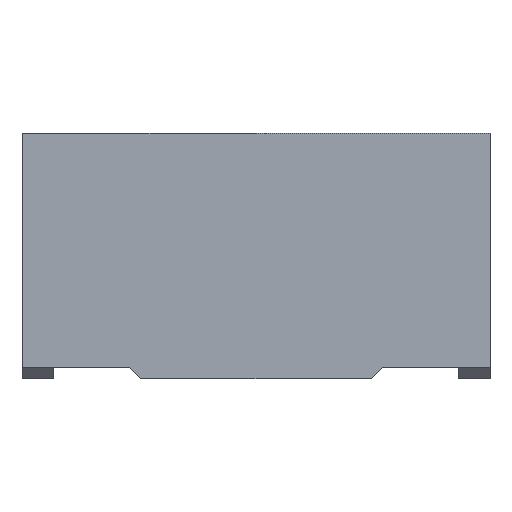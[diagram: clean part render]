
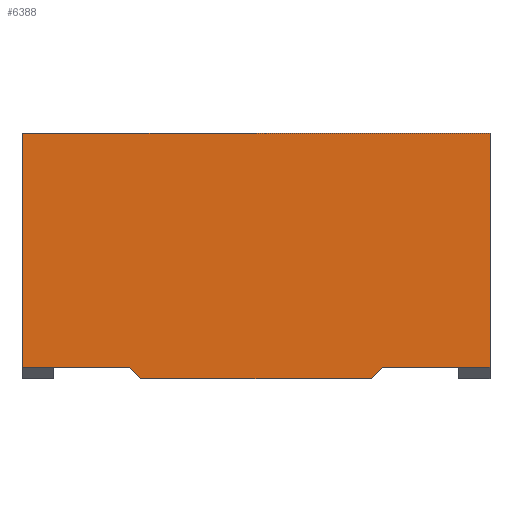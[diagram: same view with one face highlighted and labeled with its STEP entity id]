
A CAD part, left-side view. The second image highlights one B-rep face of the part: STEP entity #6388.
In plain terms, the highlighted planar face has unit normal (-1, 0, 0).
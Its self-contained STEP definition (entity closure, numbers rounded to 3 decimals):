
#35 = LINE ( 'NONE', #2072, #5003 ) ;
#58 = CARTESIAN_POINT ( 'NONE',  ( 0., -3.05, -0.3 ) ) ;
#243 = ORIENTED_EDGE ( 'NONE', *, *, #1831, .F. ) ;
#288 = VECTOR ( 'NONE', #5220, 1000. ) ;
#490 = VECTOR ( 'NONE', #4942, 1000. ) ;
#561 = VERTEX_POINT ( 'NONE', #3801 ) ;
#582 = LINE ( 'NONE', #6223, #4992 ) ;
#616 = DIRECTION ( 'NONE',  ( 0., 1., 0. ) ) ;
#710 = VECTOR ( 'NONE', #6273, 1000. ) ;
#789 = EDGE_CURVE ( 'NONE', #6575, #3134, #35, .T. ) ;
#940 = DIRECTION ( 'NONE',  ( 1., 0., 0. ) ) ;
#1003 = EDGE_CURVE ( 'NONE', #6548, #4027, #582, .T. ) ;
#1044 = CARTESIAN_POINT ( 'NONE',  ( 0., 0., 6. ) ) ;
#1073 = AXIS2_PLACEMENT_3D ( 'NONE', #1044, #940, #2975 ) ;
#1089 = EDGE_CURVE ( 'NONE', #6575, #4739, #3721, .T. ) ;
#1118 = ORIENTED_EDGE ( 'NONE', *, *, #1471, .T. ) ;
#1471 = EDGE_CURVE ( 'NONE', #6157, #3465, #2204, .T. ) ;
#1739 = ORIENTED_EDGE ( 'NONE', *, *, #2001, .F. ) ;
#1831 = EDGE_CURVE ( 'NONE', #4739, #3465, #2334, .T. ) ;
#1866 = VECTOR ( 'NONE', #4524, 1000. ) ;
#1891 = LINE ( 'NONE', #1956, #490 ) ;
#1956 = CARTESIAN_POINT ( 'NONE',  ( 0., -12., 0. ) ) ;
#2001 = EDGE_CURVE ( 'NONE', #6157, #6548, #5558, .T. ) ;
#2072 = CARTESIAN_POINT ( 'NONE',  ( 0., 0., 6. ) ) ;
#2105 = EDGE_LOOP ( 'NONE', ( #5837, #6406, #1739, #1118, #243, #4702, #4101, #5691 ) ) ;
#2204 = LINE ( 'NONE', #4238, #710 ) ;
#2220 = CARTESIAN_POINT ( 'NONE',  ( 0., -9.25, 0. ) ) ;
#2236 = EDGE_CURVE ( 'NONE', #3134, #561, #1891, .T. ) ;
#2238 = CARTESIAN_POINT ( 'NONE',  ( 0., -12., 6. ) ) ;
#2334 = LINE ( 'NONE', #2238, #2675 ) ;
#2363 = CARTESIAN_POINT ( 'NONE',  ( 0., -12., 0. ) ) ;
#2478 = FACE_OUTER_BOUND ( 'NONE', #2105, .T. ) ;
#2675 = VECTOR ( 'NONE', #6364, 1000. ) ;
#2962 = CARTESIAN_POINT ( 'NONE',  ( 0., -8.95, -0.3 ) ) ;
#2975 = DIRECTION ( 'NONE',  ( 0., 1., 0. ) ) ;
#3065 = CARTESIAN_POINT ( 'NONE',  ( 0., 0., 6. ) ) ;
#3134 = VERTEX_POINT ( 'NONE', #3717 ) ;
#3191 = LINE ( 'NONE', #58, #288 ) ;
#3465 = VERTEX_POINT ( 'NONE', #2363 ) ;
#3511 = PLANE ( 'NONE',  #1073 ) ;
#3619 = DIRECTION ( 'NONE',  ( 0., -1., 0. ) ) ;
#3701 = EDGE_CURVE ( 'NONE', #4027, #561, #3191, .T. ) ;
#3717 = CARTESIAN_POINT ( 'NONE',  ( 0., 0., 0. ) ) ;
#3721 = LINE ( 'NONE', #6222, #4465 ) ;
#3801 = CARTESIAN_POINT ( 'NONE',  ( 0., -2.75, 0. ) ) ;
#4027 = VERTEX_POINT ( 'NONE', #5778 ) ;
#4101 = ORIENTED_EDGE ( 'NONE', *, *, #789, .T. ) ;
#4238 = CARTESIAN_POINT ( 'NONE',  ( 0., -12., 0. ) ) ;
#4465 = VECTOR ( 'NONE', #3619, 1000. ) ;
#4524 = DIRECTION ( 'NONE',  ( 0., 0.707, -0.707 ) ) ;
#4702 = ORIENTED_EDGE ( 'NONE', *, *, #1089, .F. ) ;
#4739 = VERTEX_POINT ( 'NONE', #6015 ) ;
#4942 = DIRECTION ( 'NONE',  ( 0., -1., 0. ) ) ;
#4992 = VECTOR ( 'NONE', #616, 1000. ) ;
#5003 = VECTOR ( 'NONE', #5632, 1000. ) ;
#5220 = DIRECTION ( 'NONE',  ( 0., 0.707, 0.707 ) ) ;
#5558 = LINE ( 'NONE', #6532, #1866 ) ;
#5632 = DIRECTION ( 'NONE',  ( 0., 0., -1. ) ) ;
#5691 = ORIENTED_EDGE ( 'NONE', *, *, #2236, .T. ) ;
#5778 = CARTESIAN_POINT ( 'NONE',  ( 0., -3.05, -0.3 ) ) ;
#5837 = ORIENTED_EDGE ( 'NONE', *, *, #3701, .F. ) ;
#6015 = CARTESIAN_POINT ( 'NONE',  ( 0., -12., 6. ) ) ;
#6157 = VERTEX_POINT ( 'NONE', #2220 ) ;
#6222 = CARTESIAN_POINT ( 'NONE',  ( 0., -12., 6. ) ) ;
#6223 = CARTESIAN_POINT ( 'NONE',  ( 0., 0., -0.3 ) ) ;
#6273 = DIRECTION ( 'NONE',  ( 0., -1., 0. ) ) ;
#6364 = DIRECTION ( 'NONE',  ( 0., 0., -1. ) ) ;
#6388 = ADVANCED_FACE ( 'NONE', ( #2478 ), #3511, .F. ) ;
#6406 = ORIENTED_EDGE ( 'NONE', *, *, #1003, .F. ) ;
#6532 = CARTESIAN_POINT ( 'NONE',  ( 0., -9.25, 0. ) ) ;
#6548 = VERTEX_POINT ( 'NONE', #2962 ) ;
#6575 = VERTEX_POINT ( 'NONE', #3065 ) ;
